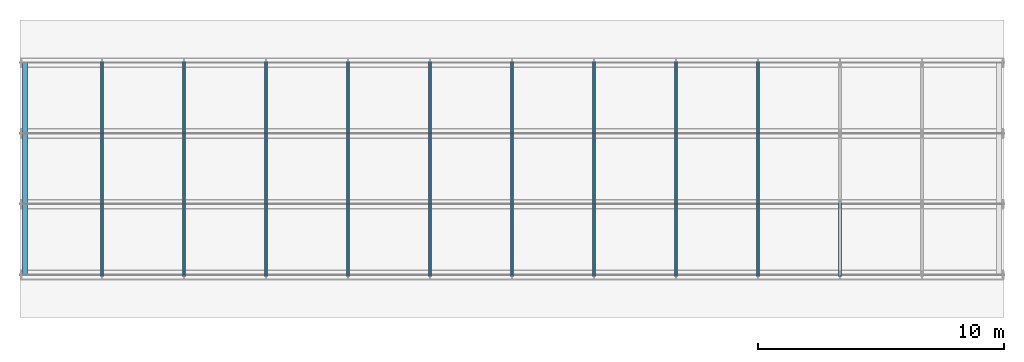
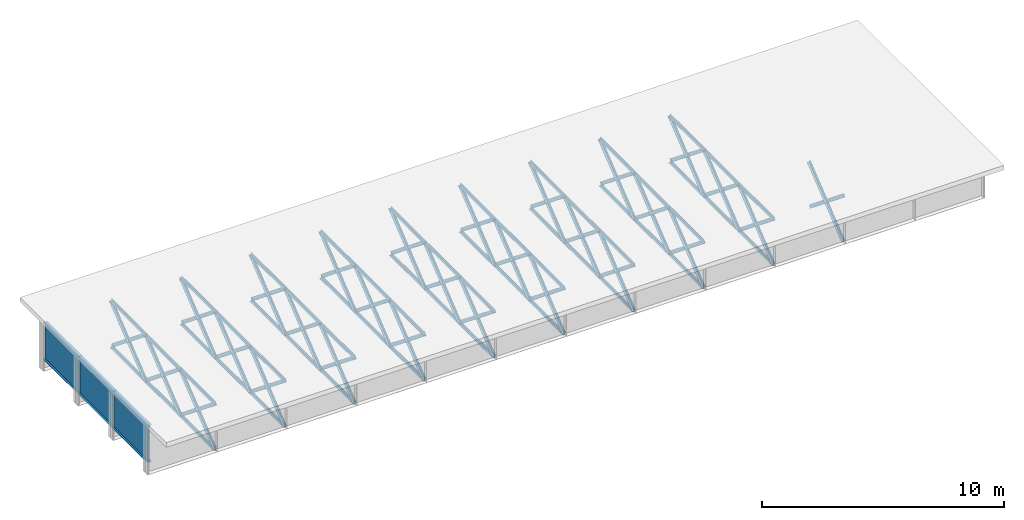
# One storey, part 1 of 15: 113 members.
"""IFC4 building model written with IfcOpenShell, lengths in metres."""

from ifc_helpers import new_model, si_unit, frame, origin, origin_with_axes, origin_2d_with_axis, place, context, subcontext, project, spatial, i_section, l_section, extrude, element, save


model = new_model("IFC4")

# Units and contexts
model_context = context("Model", 3, precision=1e-05, world=origin())
body_context = subcontext(model_context, "Body", "Model", "MODEL_VIEW")
ifc_project = project(units=[si_unit("LENGTHUNIT", "METRE"), si_unit("AREAUNIT", "SQUARE_METRE"), si_unit("VOLUMEUNIT", "CUBIC_METRE"), si_unit("PLANEANGLEUNIT", "RADIAN")], contexts=[model_context])

# Site, building, storey
site_placement = place(None, origin_with_axes())
site = spatial("IfcSite", under=ifc_project, at=site_placement, Name="Default Site")
building_placement = place(site_placement, origin_with_axes())
building = spatial("IfcBuilding", under=site, at=building_placement, Name="Bridge Structure")
storey_placement = place(building_placement, origin_with_axes())
storey = spatial("IfcBuildingStorey", under=building, at=storey_placement, Name="Superstructure")

# Members
for number, where, z_axis, x_axis, name in (
    (1, (0.2, -4.3125, 0.2315), (0.0, 1.0, 0.0), (-1.0, 0.0, 0.0), "End Diaphragm"),
    (2, (0.2, -1.4375, 0.2315), (0.0, 1.0, 0.0), (-1.0, 0.0, 0.0), "End Diaphragm"),
    (3, (0.2, 1.4375, 0.2315), (0.0, 1.0, 0.0), (-1.0, 0.0, 0.0), "End Diaphragm"),
):
    element("IfcMember", number, at=place(storey_placement, frame(where, z_axis=z_axis, x_axis=x_axis)), inside=storey, Name=name, context=body_context, shape_type="SweptSolid", body=[
        extrude(i_section(OverallWidth=0.21, OverallDepth=1.851, WebThickness=0.016, FlangeThickness=0.012, at=origin_2d_with_axis()), origin_with_axes(), (0.0, 0.0, 1.0), 2.875),
    ])
for number, where, z_axis, x_axis, name in (
    (4, (3.3333333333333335, -4.3125, 1.157), (0.0, 0.7790149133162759, -0.6270053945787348), (-1.0, 0.0, 0.0), "Diagonal Brace"),
    (5, (3.3333333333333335, -4.3125, -1.157), (0.0, 0.7790149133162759, 0.6270053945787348), (-1.0, 0.0, 0.0), "Diagonal Brace"),
):
    element("IfcMember", number, at=place(storey_placement, frame(where, z_axis=z_axis, x_axis=x_axis)), inside=storey, Name=name, context=body_context, shape_type="SweptSolid", body=[
        extrude(l_section(Depth=0.17300000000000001, Width=0.115, Thickness=0.008, at=origin_2d_with_axis()), origin_with_axes(), (0.0, 0.0, 1.0), 3.6905583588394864),
    ])
for number, where, z_axis, x_axis, name in (
    (6, (3.3333333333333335, -4.3125, -1.157), (0.0, 1.0, 0.0), (-1.0, 0.0, 0.0), "Bottom Chord"),
    (7, (3.3333333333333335, -4.3125, 1.157), (0.0, 1.0, 0.0), (-1.0, 0.0, 0.0), "Top Chord"),
):
    element("IfcMember", number, at=place(storey_placement, frame(where, z_axis=z_axis, x_axis=x_axis)), inside=storey, Name=name, context=body_context, shape_type="SweptSolid", body=[
        extrude(l_section(Depth=0.15, Width=0.092, Thickness=0.008, at=origin_2d_with_axis()), origin_with_axes(), (0.0, 0.0, 1.0), 2.875),
    ])
for number, where, z_axis, x_axis, name in (
    (8, (3.3333333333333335, -1.4375, 1.157), (0.0, 0.7790149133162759, -0.6270053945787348), (-1.0, 0.0, 0.0), "Diagonal Brace"),
    (9, (3.3333333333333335, -1.4375, -1.157), (0.0, 0.7790149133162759, 0.6270053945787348), (-1.0, 0.0, 0.0), "Diagonal Brace"),
):
    element("IfcMember", number, at=place(storey_placement, frame(where, z_axis=z_axis, x_axis=x_axis)), inside=storey, Name=name, context=body_context, shape_type="SweptSolid", body=[
        extrude(l_section(Depth=0.17300000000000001, Width=0.115, Thickness=0.008, at=origin_2d_with_axis()), origin_with_axes(), (0.0, 0.0, 1.0), 3.6905583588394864),
    ])
for number, where, z_axis, x_axis, name in (
    (10, (3.3333333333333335, -1.4375, -1.157), (0.0, 1.0, 0.0), (-1.0, 0.0, 0.0), "Bottom Chord"),
    (11, (3.3333333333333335, -1.4375, 1.157), (0.0, 1.0, 0.0), (-1.0, 0.0, 0.0), "Top Chord"),
):
    element("IfcMember", number, at=place(storey_placement, frame(where, z_axis=z_axis, x_axis=x_axis)), inside=storey, Name=name, context=body_context, shape_type="SweptSolid", body=[
        extrude(l_section(Depth=0.15, Width=0.092, Thickness=0.008, at=origin_2d_with_axis()), origin_with_axes(), (0.0, 0.0, 1.0), 2.875),
    ])
for number, where, z_axis, x_axis, name in (
    (12, (3.3333333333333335, 1.4375, 1.157), (0.0, 0.7790149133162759, -0.6270053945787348), (-1.0, 0.0, 0.0), "Diagonal Brace"),
    (13, (3.3333333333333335, 1.4375, -1.157), (0.0, 0.7790149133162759, 0.6270053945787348), (-1.0, 0.0, 0.0), "Diagonal Brace"),
):
    element("IfcMember", number, at=place(storey_placement, frame(where, z_axis=z_axis, x_axis=x_axis)), inside=storey, Name=name, context=body_context, shape_type="SweptSolid", body=[
        extrude(l_section(Depth=0.17300000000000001, Width=0.115, Thickness=0.008, at=origin_2d_with_axis()), origin_with_axes(), (0.0, 0.0, 1.0), 3.6905583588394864),
    ])
for number, where, z_axis, x_axis, name in (
    (14, (3.3333333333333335, 1.4375, -1.157), (0.0, 1.0, 0.0), (-1.0, 0.0, 0.0), "Bottom Chord"),
    (15, (3.3333333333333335, 1.4375, 1.157), (0.0, 1.0, 0.0), (-1.0, 0.0, 0.0), "Top Chord"),
):
    element("IfcMember", number, at=place(storey_placement, frame(where, z_axis=z_axis, x_axis=x_axis)), inside=storey, Name=name, context=body_context, shape_type="SweptSolid", body=[
        extrude(l_section(Depth=0.15, Width=0.092, Thickness=0.008, at=origin_2d_with_axis()), origin_with_axes(), (0.0, 0.0, 1.0), 2.875),
    ])
for number, where, z_axis, x_axis, name in (
    (16, (6.666666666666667, -4.3125, 1.157), (0.0, 0.7790149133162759, -0.6270053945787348), (-1.0, 0.0, 0.0), "Diagonal Brace"),
    (17, (6.666666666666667, -4.3125, -1.157), (0.0, 0.7790149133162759, 0.6270053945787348), (-1.0, 0.0, 0.0), "Diagonal Brace"),
):
    element("IfcMember", number, at=place(storey_placement, frame(where, z_axis=z_axis, x_axis=x_axis)), inside=storey, Name=name, context=body_context, shape_type="SweptSolid", body=[
        extrude(l_section(Depth=0.17300000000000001, Width=0.115, Thickness=0.008, at=origin_2d_with_axis()), origin_with_axes(), (0.0, 0.0, 1.0), 3.6905583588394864),
    ])
for number, where, z_axis, x_axis, name in (
    (18, (6.666666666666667, -4.3125, -1.157), (0.0, 1.0, 0.0), (-1.0, 0.0, 0.0), "Bottom Chord"),
    (19, (6.666666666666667, -4.3125, 1.157), (0.0, 1.0, 0.0), (-1.0, 0.0, 0.0), "Top Chord"),
):
    element("IfcMember", number, at=place(storey_placement, frame(where, z_axis=z_axis, x_axis=x_axis)), inside=storey, Name=name, context=body_context, shape_type="SweptSolid", body=[
        extrude(l_section(Depth=0.15, Width=0.092, Thickness=0.008, at=origin_2d_with_axis()), origin_with_axes(), (0.0, 0.0, 1.0), 2.875),
    ])
for number, where, z_axis, x_axis, name in (
    (20, (6.666666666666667, -1.4375, 1.157), (0.0, 0.7790149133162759, -0.6270053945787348), (-1.0, 0.0, 0.0), "Diagonal Brace"),
    (21, (6.666666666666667, -1.4375, -1.157), (0.0, 0.7790149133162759, 0.6270053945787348), (-1.0, 0.0, 0.0), "Diagonal Brace"),
):
    element("IfcMember", number, at=place(storey_placement, frame(where, z_axis=z_axis, x_axis=x_axis)), inside=storey, Name=name, context=body_context, shape_type="SweptSolid", body=[
        extrude(l_section(Depth=0.17300000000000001, Width=0.115, Thickness=0.008, at=origin_2d_with_axis()), origin_with_axes(), (0.0, 0.0, 1.0), 3.6905583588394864),
    ])
for number, where, z_axis, x_axis, name in (
    (22, (6.666666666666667, -1.4375, -1.157), (0.0, 1.0, 0.0), (-1.0, 0.0, 0.0), "Bottom Chord"),
    (23, (6.666666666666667, -1.4375, 1.157), (0.0, 1.0, 0.0), (-1.0, 0.0, 0.0), "Top Chord"),
):
    element("IfcMember", number, at=place(storey_placement, frame(where, z_axis=z_axis, x_axis=x_axis)), inside=storey, Name=name, context=body_context, shape_type="SweptSolid", body=[
        extrude(l_section(Depth=0.15, Width=0.092, Thickness=0.008, at=origin_2d_with_axis()), origin_with_axes(), (0.0, 0.0, 1.0), 2.875),
    ])
for number, where, z_axis, x_axis, name in (
    (24, (6.666666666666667, 1.4375, 1.157), (0.0, 0.7790149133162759, -0.6270053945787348), (-1.0, 0.0, 0.0), "Diagonal Brace"),
    (25, (6.666666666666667, 1.4375, -1.157), (0.0, 0.7790149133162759, 0.6270053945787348), (-1.0, 0.0, 0.0), "Diagonal Brace"),
):
    element("IfcMember", number, at=place(storey_placement, frame(where, z_axis=z_axis, x_axis=x_axis)), inside=storey, Name=name, context=body_context, shape_type="SweptSolid", body=[
        extrude(l_section(Depth=0.17300000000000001, Width=0.115, Thickness=0.008, at=origin_2d_with_axis()), origin_with_axes(), (0.0, 0.0, 1.0), 3.6905583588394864),
    ])
for number, where, z_axis, x_axis, name in (
    (26, (6.666666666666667, 1.4375, -1.157), (0.0, 1.0, 0.0), (-1.0, 0.0, 0.0), "Bottom Chord"),
    (27, (6.666666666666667, 1.4375, 1.157), (0.0, 1.0, 0.0), (-1.0, 0.0, 0.0), "Top Chord"),
):
    element("IfcMember", number, at=place(storey_placement, frame(where, z_axis=z_axis, x_axis=x_axis)), inside=storey, Name=name, context=body_context, shape_type="SweptSolid", body=[
        extrude(l_section(Depth=0.15, Width=0.092, Thickness=0.008, at=origin_2d_with_axis()), origin_with_axes(), (0.0, 0.0, 1.0), 2.875),
    ])
for number, where, z_axis, x_axis, name in (
    (28, (10.0, -4.3125, 1.157), (0.0, 0.7790149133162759, -0.6270053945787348), (-1.0, 0.0, 0.0), "Diagonal Brace"),
    (29, (10.0, -4.3125, -1.157), (0.0, 0.7790149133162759, 0.6270053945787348), (-1.0, 0.0, 0.0), "Diagonal Brace"),
):
    element("IfcMember", number, at=place(storey_placement, frame(where, z_axis=z_axis, x_axis=x_axis)), inside=storey, Name=name, context=body_context, shape_type="SweptSolid", body=[
        extrude(l_section(Depth=0.17300000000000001, Width=0.115, Thickness=0.008, at=origin_2d_with_axis()), origin_with_axes(), (0.0, 0.0, 1.0), 3.6905583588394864),
    ])
for number, where, z_axis, x_axis, name in (
    (30, (10.0, -4.3125, -1.157), (0.0, 1.0, 0.0), (-1.0, 0.0, 0.0), "Bottom Chord"),
    (31, (10.0, -4.3125, 1.157), (0.0, 1.0, 0.0), (-1.0, 0.0, 0.0), "Top Chord"),
):
    element("IfcMember", number, at=place(storey_placement, frame(where, z_axis=z_axis, x_axis=x_axis)), inside=storey, Name=name, context=body_context, shape_type="SweptSolid", body=[
        extrude(l_section(Depth=0.15, Width=0.092, Thickness=0.008, at=origin_2d_with_axis()), origin_with_axes(), (0.0, 0.0, 1.0), 2.875),
    ])
for number, where, z_axis, x_axis, name in (
    (32, (10.0, -1.4375, 1.157), (0.0, 0.7790149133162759, -0.6270053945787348), (-1.0, 0.0, 0.0), "Diagonal Brace"),
    (33, (10.0, -1.4375, -1.157), (0.0, 0.7790149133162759, 0.6270053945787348), (-1.0, 0.0, 0.0), "Diagonal Brace"),
):
    element("IfcMember", number, at=place(storey_placement, frame(where, z_axis=z_axis, x_axis=x_axis)), inside=storey, Name=name, context=body_context, shape_type="SweptSolid", body=[
        extrude(l_section(Depth=0.17300000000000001, Width=0.115, Thickness=0.008, at=origin_2d_with_axis()), origin_with_axes(), (0.0, 0.0, 1.0), 3.6905583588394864),
    ])
for number, where, z_axis, x_axis, name in (
    (34, (10.0, -1.4375, -1.157), (0.0, 1.0, 0.0), (-1.0, 0.0, 0.0), "Bottom Chord"),
    (35, (10.0, -1.4375, 1.157), (0.0, 1.0, 0.0), (-1.0, 0.0, 0.0), "Top Chord"),
):
    element("IfcMember", number, at=place(storey_placement, frame(where, z_axis=z_axis, x_axis=x_axis)), inside=storey, Name=name, context=body_context, shape_type="SweptSolid", body=[
        extrude(l_section(Depth=0.15, Width=0.092, Thickness=0.008, at=origin_2d_with_axis()), origin_with_axes(), (0.0, 0.0, 1.0), 2.875),
    ])
for number, where, z_axis, x_axis, name in (
    (36, (10.0, 1.4375, 1.157), (0.0, 0.7790149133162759, -0.6270053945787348), (-1.0, 0.0, 0.0), "Diagonal Brace"),
    (37, (10.0, 1.4375, -1.157), (0.0, 0.7790149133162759, 0.6270053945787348), (-1.0, 0.0, 0.0), "Diagonal Brace"),
):
    element("IfcMember", number, at=place(storey_placement, frame(where, z_axis=z_axis, x_axis=x_axis)), inside=storey, Name=name, context=body_context, shape_type="SweptSolid", body=[
        extrude(l_section(Depth=0.17300000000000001, Width=0.115, Thickness=0.008, at=origin_2d_with_axis()), origin_with_axes(), (0.0, 0.0, 1.0), 3.6905583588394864),
    ])
for number, where, z_axis, x_axis, name in (
    (38, (10.0, 1.4375, -1.157), (0.0, 1.0, 0.0), (-1.0, 0.0, 0.0), "Bottom Chord"),
    (39, (10.0, 1.4375, 1.157), (0.0, 1.0, 0.0), (-1.0, 0.0, 0.0), "Top Chord"),
):
    element("IfcMember", number, at=place(storey_placement, frame(where, z_axis=z_axis, x_axis=x_axis)), inside=storey, Name=name, context=body_context, shape_type="SweptSolid", body=[
        extrude(l_section(Depth=0.15, Width=0.092, Thickness=0.008, at=origin_2d_with_axis()), origin_with_axes(), (0.0, 0.0, 1.0), 2.875),
    ])
for number, where, z_axis, x_axis, name in (
    (40, (13.333333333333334, -4.3125, 1.157), (0.0, 0.7790149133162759, -0.6270053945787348), (-1.0, 0.0, 0.0), "Diagonal Brace"),
    (41, (13.333333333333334, -4.3125, -1.157), (0.0, 0.7790149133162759, 0.6270053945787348), (-1.0, 0.0, 0.0), "Diagonal Brace"),
):
    element("IfcMember", number, at=place(storey_placement, frame(where, z_axis=z_axis, x_axis=x_axis)), inside=storey, Name=name, context=body_context, shape_type="SweptSolid", body=[
        extrude(l_section(Depth=0.17300000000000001, Width=0.115, Thickness=0.008, at=origin_2d_with_axis()), origin_with_axes(), (0.0, 0.0, 1.0), 3.6905583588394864),
    ])
for number, where, z_axis, x_axis, name in (
    (42, (13.333333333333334, -4.3125, -1.157), (0.0, 1.0, 0.0), (-1.0, 0.0, 0.0), "Bottom Chord"),
    (43, (13.333333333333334, -4.3125, 1.157), (0.0, 1.0, 0.0), (-1.0, 0.0, 0.0), "Top Chord"),
):
    element("IfcMember", number, at=place(storey_placement, frame(where, z_axis=z_axis, x_axis=x_axis)), inside=storey, Name=name, context=body_context, shape_type="SweptSolid", body=[
        extrude(l_section(Depth=0.15, Width=0.092, Thickness=0.008, at=origin_2d_with_axis()), origin_with_axes(), (0.0, 0.0, 1.0), 2.875),
    ])
for number, where, z_axis, x_axis, name in (
    (44, (13.333333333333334, -1.4375, 1.157), (0.0, 0.7790149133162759, -0.6270053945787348), (-1.0, 0.0, 0.0), "Diagonal Brace"),
    (45, (13.333333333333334, -1.4375, -1.157), (0.0, 0.7790149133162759, 0.6270053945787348), (-1.0, 0.0, 0.0), "Diagonal Brace"),
):
    element("IfcMember", number, at=place(storey_placement, frame(where, z_axis=z_axis, x_axis=x_axis)), inside=storey, Name=name, context=body_context, shape_type="SweptSolid", body=[
        extrude(l_section(Depth=0.17300000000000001, Width=0.115, Thickness=0.008, at=origin_2d_with_axis()), origin_with_axes(), (0.0, 0.0, 1.0), 3.6905583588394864),
    ])
for number, where, z_axis, x_axis, name in (
    (46, (13.333333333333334, -1.4375, -1.157), (0.0, 1.0, 0.0), (-1.0, 0.0, 0.0), "Bottom Chord"),
    (47, (13.333333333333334, -1.4375, 1.157), (0.0, 1.0, 0.0), (-1.0, 0.0, 0.0), "Top Chord"),
):
    element("IfcMember", number, at=place(storey_placement, frame(where, z_axis=z_axis, x_axis=x_axis)), inside=storey, Name=name, context=body_context, shape_type="SweptSolid", body=[
        extrude(l_section(Depth=0.15, Width=0.092, Thickness=0.008, at=origin_2d_with_axis()), origin_with_axes(), (0.0, 0.0, 1.0), 2.875),
    ])
for number, where, z_axis, x_axis, name in (
    (48, (13.333333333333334, 1.4375, 1.157), (0.0, 0.7790149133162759, -0.6270053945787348), (-1.0, 0.0, 0.0), "Diagonal Brace"),
    (49, (13.333333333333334, 1.4375, -1.157), (0.0, 0.7790149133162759, 0.6270053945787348), (-1.0, 0.0, 0.0), "Diagonal Brace"),
):
    element("IfcMember", number, at=place(storey_placement, frame(where, z_axis=z_axis, x_axis=x_axis)), inside=storey, Name=name, context=body_context, shape_type="SweptSolid", body=[
        extrude(l_section(Depth=0.17300000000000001, Width=0.115, Thickness=0.008, at=origin_2d_with_axis()), origin_with_axes(), (0.0, 0.0, 1.0), 3.6905583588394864),
    ])
for number, where, z_axis, x_axis, name in (
    (50, (13.333333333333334, 1.4375, -1.157), (0.0, 1.0, 0.0), (-1.0, 0.0, 0.0), "Bottom Chord"),
    (51, (13.333333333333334, 1.4375, 1.157), (0.0, 1.0, 0.0), (-1.0, 0.0, 0.0), "Top Chord"),
):
    element("IfcMember", number, at=place(storey_placement, frame(where, z_axis=z_axis, x_axis=x_axis)), inside=storey, Name=name, context=body_context, shape_type="SweptSolid", body=[
        extrude(l_section(Depth=0.15, Width=0.092, Thickness=0.008, at=origin_2d_with_axis()), origin_with_axes(), (0.0, 0.0, 1.0), 2.875),
    ])
for number, where, z_axis, x_axis, name in (
    (52, (16.666666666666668, -4.3125, 1.157), (0.0, 0.7790149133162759, -0.6270053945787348), (-1.0, 0.0, 0.0), "Diagonal Brace"),
    (53, (16.666666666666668, -4.3125, -1.157), (0.0, 0.7790149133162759, 0.6270053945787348), (-1.0, 0.0, 0.0), "Diagonal Brace"),
):
    element("IfcMember", number, at=place(storey_placement, frame(where, z_axis=z_axis, x_axis=x_axis)), inside=storey, Name=name, context=body_context, shape_type="SweptSolid", body=[
        extrude(l_section(Depth=0.17300000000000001, Width=0.115, Thickness=0.008, at=origin_2d_with_axis()), origin_with_axes(), (0.0, 0.0, 1.0), 3.6905583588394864),
    ])
for number, where, z_axis, x_axis, name in (
    (54, (16.666666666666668, -4.3125, -1.157), (0.0, 1.0, 0.0), (-1.0, 0.0, 0.0), "Bottom Chord"),
    (55, (16.666666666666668, -4.3125, 1.157), (0.0, 1.0, 0.0), (-1.0, 0.0, 0.0), "Top Chord"),
):
    element("IfcMember", number, at=place(storey_placement, frame(where, z_axis=z_axis, x_axis=x_axis)), inside=storey, Name=name, context=body_context, shape_type="SweptSolid", body=[
        extrude(l_section(Depth=0.15, Width=0.092, Thickness=0.008, at=origin_2d_with_axis()), origin_with_axes(), (0.0, 0.0, 1.0), 2.875),
    ])
for number, where, z_axis, x_axis, name in (
    (56, (16.666666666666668, -1.4375, 1.157), (0.0, 0.7790149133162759, -0.6270053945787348), (-1.0, 0.0, 0.0), "Diagonal Brace"),
    (57, (16.666666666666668, -1.4375, -1.157), (0.0, 0.7790149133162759, 0.6270053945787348), (-1.0, 0.0, 0.0), "Diagonal Brace"),
):
    element("IfcMember", number, at=place(storey_placement, frame(where, z_axis=z_axis, x_axis=x_axis)), inside=storey, Name=name, context=body_context, shape_type="SweptSolid", body=[
        extrude(l_section(Depth=0.17300000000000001, Width=0.115, Thickness=0.008, at=origin_2d_with_axis()), origin_with_axes(), (0.0, 0.0, 1.0), 3.6905583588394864),
    ])
for number, where, z_axis, x_axis, name in (
    (58, (16.666666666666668, -1.4375, -1.157), (0.0, 1.0, 0.0), (-1.0, 0.0, 0.0), "Bottom Chord"),
    (59, (16.666666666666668, -1.4375, 1.157), (0.0, 1.0, 0.0), (-1.0, 0.0, 0.0), "Top Chord"),
):
    element("IfcMember", number, at=place(storey_placement, frame(where, z_axis=z_axis, x_axis=x_axis)), inside=storey, Name=name, context=body_context, shape_type="SweptSolid", body=[
        extrude(l_section(Depth=0.15, Width=0.092, Thickness=0.008, at=origin_2d_with_axis()), origin_with_axes(), (0.0, 0.0, 1.0), 2.875),
    ])
for number, where, z_axis, x_axis, name in (
    (60, (16.666666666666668, 1.4375, 1.157), (0.0, 0.7790149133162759, -0.6270053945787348), (-1.0, 0.0, 0.0), "Diagonal Brace"),
    (61, (16.666666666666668, 1.4375, -1.157), (0.0, 0.7790149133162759, 0.6270053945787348), (-1.0, 0.0, 0.0), "Diagonal Brace"),
):
    element("IfcMember", number, at=place(storey_placement, frame(where, z_axis=z_axis, x_axis=x_axis)), inside=storey, Name=name, context=body_context, shape_type="SweptSolid", body=[
        extrude(l_section(Depth=0.17300000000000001, Width=0.115, Thickness=0.008, at=origin_2d_with_axis()), origin_with_axes(), (0.0, 0.0, 1.0), 3.6905583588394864),
    ])
for number, where, z_axis, x_axis, name in (
    (62, (16.666666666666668, 1.4375, -1.157), (0.0, 1.0, 0.0), (-1.0, 0.0, 0.0), "Bottom Chord"),
    (63, (16.666666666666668, 1.4375, 1.157), (0.0, 1.0, 0.0), (-1.0, 0.0, 0.0), "Top Chord"),
):
    element("IfcMember", number, at=place(storey_placement, frame(where, z_axis=z_axis, x_axis=x_axis)), inside=storey, Name=name, context=body_context, shape_type="SweptSolid", body=[
        extrude(l_section(Depth=0.15, Width=0.092, Thickness=0.008, at=origin_2d_with_axis()), origin_with_axes(), (0.0, 0.0, 1.0), 2.875),
    ])
for number, where, z_axis, x_axis, name in (
    (64, (20.0, -4.3125, 1.157), (0.0, 0.7790149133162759, -0.6270053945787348), (-1.0, 0.0, 0.0), "Diagonal Brace"),
    (65, (20.0, -4.3125, -1.157), (0.0, 0.7790149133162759, 0.6270053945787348), (-1.0, 0.0, 0.0), "Diagonal Brace"),
):
    element("IfcMember", number, at=place(storey_placement, frame(where, z_axis=z_axis, x_axis=x_axis)), inside=storey, Name=name, context=body_context, shape_type="SweptSolid", body=[
        extrude(l_section(Depth=0.17300000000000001, Width=0.115, Thickness=0.008, at=origin_2d_with_axis()), origin_with_axes(), (0.0, 0.0, 1.0), 3.6905583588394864),
    ])
for number, where, z_axis, x_axis, name in (
    (66, (20.0, -4.3125, -1.157), (0.0, 1.0, 0.0), (-1.0, 0.0, 0.0), "Bottom Chord"),
    (67, (20.0, -4.3125, 1.157), (0.0, 1.0, 0.0), (-1.0, 0.0, 0.0), "Top Chord"),
):
    element("IfcMember", number, at=place(storey_placement, frame(where, z_axis=z_axis, x_axis=x_axis)), inside=storey, Name=name, context=body_context, shape_type="SweptSolid", body=[
        extrude(l_section(Depth=0.15, Width=0.092, Thickness=0.008, at=origin_2d_with_axis()), origin_with_axes(), (0.0, 0.0, 1.0), 2.875),
    ])
for number, where, z_axis, x_axis, name in (
    (68, (20.0, -1.4375, 1.157), (0.0, 0.7790149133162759, -0.6270053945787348), (-1.0, 0.0, 0.0), "Diagonal Brace"),
    (69, (20.0, -1.4375, -1.157), (0.0, 0.7790149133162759, 0.6270053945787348), (-1.0, 0.0, 0.0), "Diagonal Brace"),
):
    element("IfcMember", number, at=place(storey_placement, frame(where, z_axis=z_axis, x_axis=x_axis)), inside=storey, Name=name, context=body_context, shape_type="SweptSolid", body=[
        extrude(l_section(Depth=0.17300000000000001, Width=0.115, Thickness=0.008, at=origin_2d_with_axis()), origin_with_axes(), (0.0, 0.0, 1.0), 3.6905583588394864),
    ])
for number, where, z_axis, x_axis, name in (
    (70, (20.0, -1.4375, -1.157), (0.0, 1.0, 0.0), (-1.0, 0.0, 0.0), "Bottom Chord"),
    (71, (20.0, -1.4375, 1.157), (0.0, 1.0, 0.0), (-1.0, 0.0, 0.0), "Top Chord"),
):
    element("IfcMember", number, at=place(storey_placement, frame(where, z_axis=z_axis, x_axis=x_axis)), inside=storey, Name=name, context=body_context, shape_type="SweptSolid", body=[
        extrude(l_section(Depth=0.15, Width=0.092, Thickness=0.008, at=origin_2d_with_axis()), origin_with_axes(), (0.0, 0.0, 1.0), 2.875),
    ])
for number, where, z_axis, x_axis, name in (
    (72, (20.0, 1.4375, 1.157), (0.0, 0.7790149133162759, -0.6270053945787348), (-1.0, 0.0, 0.0), "Diagonal Brace"),
    (73, (20.0, 1.4375, -1.157), (0.0, 0.7790149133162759, 0.6270053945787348), (-1.0, 0.0, 0.0), "Diagonal Brace"),
):
    element("IfcMember", number, at=place(storey_placement, frame(where, z_axis=z_axis, x_axis=x_axis)), inside=storey, Name=name, context=body_context, shape_type="SweptSolid", body=[
        extrude(l_section(Depth=0.17300000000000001, Width=0.115, Thickness=0.008, at=origin_2d_with_axis()), origin_with_axes(), (0.0, 0.0, 1.0), 3.6905583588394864),
    ])
for number, where, z_axis, x_axis, name in (
    (74, (20.0, 1.4375, -1.157), (0.0, 1.0, 0.0), (-1.0, 0.0, 0.0), "Bottom Chord"),
    (75, (20.0, 1.4375, 1.157), (0.0, 1.0, 0.0), (-1.0, 0.0, 0.0), "Top Chord"),
):
    element("IfcMember", number, at=place(storey_placement, frame(where, z_axis=z_axis, x_axis=x_axis)), inside=storey, Name=name, context=body_context, shape_type="SweptSolid", body=[
        extrude(l_section(Depth=0.15, Width=0.092, Thickness=0.008, at=origin_2d_with_axis()), origin_with_axes(), (0.0, 0.0, 1.0), 2.875),
    ])
for number, where, z_axis, x_axis, name in (
    (76, (23.333333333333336, -4.3125, 1.157), (0.0, 0.7790149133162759, -0.6270053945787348), (-1.0, 0.0, 0.0), "Diagonal Brace"),
    (77, (23.333333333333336, -4.3125, -1.157), (0.0, 0.7790149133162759, 0.6270053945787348), (-1.0, 0.0, 0.0), "Diagonal Brace"),
):
    element("IfcMember", number, at=place(storey_placement, frame(where, z_axis=z_axis, x_axis=x_axis)), inside=storey, Name=name, context=body_context, shape_type="SweptSolid", body=[
        extrude(l_section(Depth=0.17300000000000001, Width=0.115, Thickness=0.008, at=origin_2d_with_axis()), origin_with_axes(), (0.0, 0.0, 1.0), 3.6905583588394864),
    ])
for number, where, z_axis, x_axis, name in (
    (78, (23.333333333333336, -4.3125, -1.157), (0.0, 1.0, 0.0), (-1.0, 0.0, 0.0), "Bottom Chord"),
    (79, (23.333333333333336, -4.3125, 1.157), (0.0, 1.0, 0.0), (-1.0, 0.0, 0.0), "Top Chord"),
):
    element("IfcMember", number, at=place(storey_placement, frame(where, z_axis=z_axis, x_axis=x_axis)), inside=storey, Name=name, context=body_context, shape_type="SweptSolid", body=[
        extrude(l_section(Depth=0.15, Width=0.092, Thickness=0.008, at=origin_2d_with_axis()), origin_with_axes(), (0.0, 0.0, 1.0), 2.875),
    ])
for number, where, z_axis, x_axis, name in (
    (80, (23.333333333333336, -1.4375, 1.157), (0.0, 0.7790149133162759, -0.6270053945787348), (-1.0, 0.0, 0.0), "Diagonal Brace"),
    (81, (23.333333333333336, -1.4375, -1.157), (0.0, 0.7790149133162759, 0.6270053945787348), (-1.0, 0.0, 0.0), "Diagonal Brace"),
):
    element("IfcMember", number, at=place(storey_placement, frame(where, z_axis=z_axis, x_axis=x_axis)), inside=storey, Name=name, context=body_context, shape_type="SweptSolid", body=[
        extrude(l_section(Depth=0.17300000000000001, Width=0.115, Thickness=0.008, at=origin_2d_with_axis()), origin_with_axes(), (0.0, 0.0, 1.0), 3.6905583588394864),
    ])
for number, where, z_axis, x_axis, name in (
    (82, (23.333333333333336, -1.4375, -1.157), (0.0, 1.0, 0.0), (-1.0, 0.0, 0.0), "Bottom Chord"),
    (83, (23.333333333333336, -1.4375, 1.157), (0.0, 1.0, 0.0), (-1.0, 0.0, 0.0), "Top Chord"),
):
    element("IfcMember", number, at=place(storey_placement, frame(where, z_axis=z_axis, x_axis=x_axis)), inside=storey, Name=name, context=body_context, shape_type="SweptSolid", body=[
        extrude(l_section(Depth=0.15, Width=0.092, Thickness=0.008, at=origin_2d_with_axis()), origin_with_axes(), (0.0, 0.0, 1.0), 2.875),
    ])
for number, where, z_axis, x_axis, name in (
    (84, (23.333333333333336, 1.4375, 1.157), (0.0, 0.7790149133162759, -0.6270053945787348), (-1.0, 0.0, 0.0), "Diagonal Brace"),
    (85, (23.333333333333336, 1.4375, -1.157), (0.0, 0.7790149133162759, 0.6270053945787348), (-1.0, 0.0, 0.0), "Diagonal Brace"),
):
    element("IfcMember", number, at=place(storey_placement, frame(where, z_axis=z_axis, x_axis=x_axis)), inside=storey, Name=name, context=body_context, shape_type="SweptSolid", body=[
        extrude(l_section(Depth=0.17300000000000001, Width=0.115, Thickness=0.008, at=origin_2d_with_axis()), origin_with_axes(), (0.0, 0.0, 1.0), 3.6905583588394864),
    ])
for number, where, z_axis, x_axis, name in (
    (86, (23.333333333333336, 1.4375, -1.157), (0.0, 1.0, 0.0), (-1.0, 0.0, 0.0), "Bottom Chord"),
    (87, (23.333333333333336, 1.4375, 1.157), (0.0, 1.0, 0.0), (-1.0, 0.0, 0.0), "Top Chord"),
):
    element("IfcMember", number, at=place(storey_placement, frame(where, z_axis=z_axis, x_axis=x_axis)), inside=storey, Name=name, context=body_context, shape_type="SweptSolid", body=[
        extrude(l_section(Depth=0.15, Width=0.092, Thickness=0.008, at=origin_2d_with_axis()), origin_with_axes(), (0.0, 0.0, 1.0), 2.875),
    ])
for number, where, z_axis, x_axis, name in (
    (88, (26.666666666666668, -4.3125, 1.157), (0.0, 0.7790149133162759, -0.6270053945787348), (-1.0, 0.0, 0.0), "Diagonal Brace"),
    (89, (26.666666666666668, -4.3125, -1.157), (0.0, 0.7790149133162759, 0.6270053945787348), (-1.0, 0.0, 0.0), "Diagonal Brace"),
):
    element("IfcMember", number, at=place(storey_placement, frame(where, z_axis=z_axis, x_axis=x_axis)), inside=storey, Name=name, context=body_context, shape_type="SweptSolid", body=[
        extrude(l_section(Depth=0.17300000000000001, Width=0.115, Thickness=0.008, at=origin_2d_with_axis()), origin_with_axes(), (0.0, 0.0, 1.0), 3.6905583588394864),
    ])
for number, where, z_axis, x_axis, name in (
    (90, (26.666666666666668, -4.3125, -1.157), (0.0, 1.0, 0.0), (-1.0, 0.0, 0.0), "Bottom Chord"),
    (91, (26.666666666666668, -4.3125, 1.157), (0.0, 1.0, 0.0), (-1.0, 0.0, 0.0), "Top Chord"),
):
    element("IfcMember", number, at=place(storey_placement, frame(where, z_axis=z_axis, x_axis=x_axis)), inside=storey, Name=name, context=body_context, shape_type="SweptSolid", body=[
        extrude(l_section(Depth=0.15, Width=0.092, Thickness=0.008, at=origin_2d_with_axis()), origin_with_axes(), (0.0, 0.0, 1.0), 2.875),
    ])
for number, where, z_axis, x_axis, name in (
    (92, (26.666666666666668, -1.4375, 1.157), (0.0, 0.7790149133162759, -0.6270053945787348), (-1.0, 0.0, 0.0), "Diagonal Brace"),
    (93, (26.666666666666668, -1.4375, -1.157), (0.0, 0.7790149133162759, 0.6270053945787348), (-1.0, 0.0, 0.0), "Diagonal Brace"),
):
    element("IfcMember", number, at=place(storey_placement, frame(where, z_axis=z_axis, x_axis=x_axis)), inside=storey, Name=name, context=body_context, shape_type="SweptSolid", body=[
        extrude(l_section(Depth=0.17300000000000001, Width=0.115, Thickness=0.008, at=origin_2d_with_axis()), origin_with_axes(), (0.0, 0.0, 1.0), 3.6905583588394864),
    ])
for number, where, z_axis, x_axis, name in (
    (94, (26.666666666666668, -1.4375, -1.157), (0.0, 1.0, 0.0), (-1.0, 0.0, 0.0), "Bottom Chord"),
    (95, (26.666666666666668, -1.4375, 1.157), (0.0, 1.0, 0.0), (-1.0, 0.0, 0.0), "Top Chord"),
):
    element("IfcMember", number, at=place(storey_placement, frame(where, z_axis=z_axis, x_axis=x_axis)), inside=storey, Name=name, context=body_context, shape_type="SweptSolid", body=[
        extrude(l_section(Depth=0.15, Width=0.092, Thickness=0.008, at=origin_2d_with_axis()), origin_with_axes(), (0.0, 0.0, 1.0), 2.875),
    ])
for number, where, z_axis, x_axis, name in (
    (96, (26.666666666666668, 1.4375, 1.157), (0.0, 0.7790149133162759, -0.6270053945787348), (-1.0, 0.0, 0.0), "Diagonal Brace"),
    (97, (26.666666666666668, 1.4375, -1.157), (0.0, 0.7790149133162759, 0.6270053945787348), (-1.0, 0.0, 0.0), "Diagonal Brace"),
):
    element("IfcMember", number, at=place(storey_placement, frame(where, z_axis=z_axis, x_axis=x_axis)), inside=storey, Name=name, context=body_context, shape_type="SweptSolid", body=[
        extrude(l_section(Depth=0.17300000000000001, Width=0.115, Thickness=0.008, at=origin_2d_with_axis()), origin_with_axes(), (0.0, 0.0, 1.0), 3.6905583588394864),
    ])
for number, where, z_axis, x_axis, name in (
    (98, (26.666666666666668, 1.4375, -1.157), (0.0, 1.0, 0.0), (-1.0, 0.0, 0.0), "Bottom Chord"),
    (99, (26.666666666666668, 1.4375, 1.157), (0.0, 1.0, 0.0), (-1.0, 0.0, 0.0), "Top Chord"),
):
    element("IfcMember", number, at=place(storey_placement, frame(where, z_axis=z_axis, x_axis=x_axis)), inside=storey, Name=name, context=body_context, shape_type="SweptSolid", body=[
        extrude(l_section(Depth=0.15, Width=0.092, Thickness=0.008, at=origin_2d_with_axis()), origin_with_axes(), (0.0, 0.0, 1.0), 2.875),
    ])
for number, where, z_axis, x_axis, name in (
    (100, (30.0, -4.3125, 1.157), (0.0, 0.7790149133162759, -0.6270053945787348), (-1.0, 0.0, 0.0), "Diagonal Brace"),
    (101, (30.0, -4.3125, -1.157), (0.0, 0.7790149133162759, 0.6270053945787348), (-1.0, 0.0, 0.0), "Diagonal Brace"),
):
    element("IfcMember", number, at=place(storey_placement, frame(where, z_axis=z_axis, x_axis=x_axis)), inside=storey, Name=name, context=body_context, shape_type="SweptSolid", body=[
        extrude(l_section(Depth=0.17300000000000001, Width=0.115, Thickness=0.008, at=origin_2d_with_axis()), origin_with_axes(), (0.0, 0.0, 1.0), 3.6905583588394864),
    ])
for number, where, z_axis, x_axis, name in (
    (102, (30.0, -4.3125, -1.157), (0.0, 1.0, 0.0), (-1.0, 0.0, 0.0), "Bottom Chord"),
    (103, (30.0, -4.3125, 1.157), (0.0, 1.0, 0.0), (-1.0, 0.0, 0.0), "Top Chord"),
):
    element("IfcMember", number, at=place(storey_placement, frame(where, z_axis=z_axis, x_axis=x_axis)), inside=storey, Name=name, context=body_context, shape_type="SweptSolid", body=[
        extrude(l_section(Depth=0.15, Width=0.092, Thickness=0.008, at=origin_2d_with_axis()), origin_with_axes(), (0.0, 0.0, 1.0), 2.875),
    ])
for number, where, z_axis, x_axis, name in (
    (104, (30.0, -1.4375, 1.157), (0.0, 0.7790149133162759, -0.6270053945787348), (-1.0, 0.0, 0.0), "Diagonal Brace"),
    (105, (30.0, -1.4375, -1.157), (0.0, 0.7790149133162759, 0.6270053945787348), (-1.0, 0.0, 0.0), "Diagonal Brace"),
):
    element("IfcMember", number, at=place(storey_placement, frame(where, z_axis=z_axis, x_axis=x_axis)), inside=storey, Name=name, context=body_context, shape_type="SweptSolid", body=[
        extrude(l_section(Depth=0.17300000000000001, Width=0.115, Thickness=0.008, at=origin_2d_with_axis()), origin_with_axes(), (0.0, 0.0, 1.0), 3.6905583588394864),
    ])
for number, where, z_axis, x_axis, name in (
    (106, (30.0, -1.4375, -1.157), (0.0, 1.0, 0.0), (-1.0, 0.0, 0.0), "Bottom Chord"),
    (107, (30.0, -1.4375, 1.157), (0.0, 1.0, 0.0), (-1.0, 0.0, 0.0), "Top Chord"),
):
    element("IfcMember", number, at=place(storey_placement, frame(where, z_axis=z_axis, x_axis=x_axis)), inside=storey, Name=name, context=body_context, shape_type="SweptSolid", body=[
        extrude(l_section(Depth=0.15, Width=0.092, Thickness=0.008, at=origin_2d_with_axis()), origin_with_axes(), (0.0, 0.0, 1.0), 2.875),
    ])
for number, where, z_axis, x_axis, name in (
    (108, (30.0, 1.4375, 1.157), (0.0, 0.7790149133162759, -0.6270053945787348), (-1.0, 0.0, 0.0), "Diagonal Brace"),
    (109, (30.0, 1.4375, -1.157), (0.0, 0.7790149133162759, 0.6270053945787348), (-1.0, 0.0, 0.0), "Diagonal Brace"),
):
    element("IfcMember", number, at=place(storey_placement, frame(where, z_axis=z_axis, x_axis=x_axis)), inside=storey, Name=name, context=body_context, shape_type="SweptSolid", body=[
        extrude(l_section(Depth=0.17300000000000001, Width=0.115, Thickness=0.008, at=origin_2d_with_axis()), origin_with_axes(), (0.0, 0.0, 1.0), 3.6905583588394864),
    ])
for number, where, z_axis, x_axis, name in (
    (110, (30.0, 1.4375, -1.157), (0.0, 1.0, 0.0), (-1.0, 0.0, 0.0), "Bottom Chord"),
    (111, (30.0, 1.4375, 1.157), (0.0, 1.0, 0.0), (-1.0, 0.0, 0.0), "Top Chord"),
):
    element("IfcMember", number, at=place(storey_placement, frame(where, z_axis=z_axis, x_axis=x_axis)), inside=storey, Name=name, context=body_context, shape_type="SweptSolid", body=[
        extrude(l_section(Depth=0.15, Width=0.092, Thickness=0.008, at=origin_2d_with_axis()), origin_with_axes(), (0.0, 0.0, 1.0), 2.875),
    ])
for number, where, z_axis, x_axis, name in (
    (112, (33.333333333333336, -4.3125, 1.157), (0.0, 0.7790149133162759, -0.6270053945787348), (-1.0, 0.0, 0.0), "Diagonal Brace"),
    (113, (33.333333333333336, -4.3125, -1.157), (0.0, 0.7790149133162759, 0.6270053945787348), (-1.0, 0.0, 0.0), "Diagonal Brace"),
):
    element("IfcMember", number, at=place(storey_placement, frame(where, z_axis=z_axis, x_axis=x_axis)), inside=storey, Name=name, context=body_context, shape_type="SweptSolid", body=[
        extrude(l_section(Depth=0.17300000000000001, Width=0.115, Thickness=0.008, at=origin_2d_with_axis()), origin_with_axes(), (0.0, 0.0, 1.0), 3.6905583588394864),
    ])

save(model, "model.ifc")
